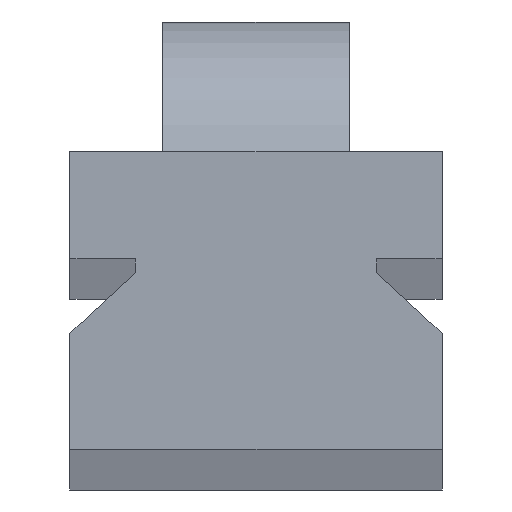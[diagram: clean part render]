
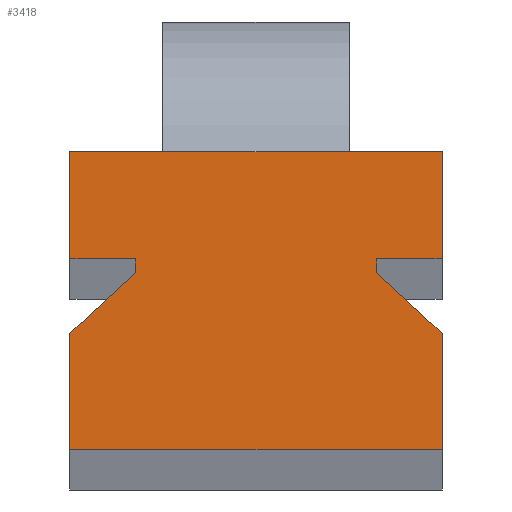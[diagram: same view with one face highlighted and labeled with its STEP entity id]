
A CAD part, top view. The second image highlights one B-rep face of the part: STEP entity #3418.
In plain terms, the highlighted planar face has unit normal (0, 0, 1).
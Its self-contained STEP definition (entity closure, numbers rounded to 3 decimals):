
#1 = CARTESIAN_POINT ( 'NONE',  ( 20., 20.5, 50. ) ) ;
#20 = DIRECTION ( 'NONE',  ( 0., 1., 0. ) ) ;
#136 = EDGE_CURVE ( 'NONE', #2442, #1818, #2179, .T. ) ;
#139 = DIRECTION ( 'NONE',  ( 1., 0., 0. ) ) ;
#266 = CARTESIAN_POINT ( 'NONE',  ( -13., 20.5, 50. ) ) ;
#305 = DIRECTION ( 'NONE',  ( -0.733, 0.68, 0. ) ) ;
#360 = VECTOR ( 'NONE', #815, 1000. ) ;
#397 = CARTESIAN_POINT ( 'NONE',  ( 13., 20.5, 50. ) ) ;
#483 = EDGE_CURVE ( 'NONE', #721, #3970, #3726, .T. ) ;
#496 = CARTESIAN_POINT ( 'NONE',  ( -20., 32., 50. ) ) ;
#566 = CARTESIAN_POINT ( 'NONE',  ( 20., 32., 50. ) ) ;
#594 = ORIENTED_EDGE ( 'NONE', *, *, #483, .T. ) ;
#605 = VERTEX_POINT ( 'NONE', #3516 ) ;
#669 = ORIENTED_EDGE ( 'NONE', *, *, #3412, .T. ) ;
#683 = CARTESIAN_POINT ( 'NONE',  ( -13., 20.5, 50. ) ) ;
#714 = ORIENTED_EDGE ( 'NONE', *, *, #2255, .T. ) ;
#721 = VERTEX_POINT ( 'NONE', #4206 ) ;
#723 = ORIENTED_EDGE ( 'NONE', *, *, #136, .T. ) ;
#724 = CARTESIAN_POINT ( 'NONE',  ( 20., 32., 50. ) ) ;
#758 = EDGE_CURVE ( 'NONE', #3950, #721, #2600, .T. ) ;
#774 = ORIENTED_EDGE ( 'NONE', *, *, #4106, .T. ) ;
#782 = LINE ( 'NONE', #4129, #2365 ) ;
#815 = DIRECTION ( 'NONE',  ( 1., 0., 0. ) ) ;
#836 = CARTESIAN_POINT ( 'NONE',  ( -20., 0., 50. ) ) ;
#862 = VECTOR ( 'NONE', #2725, 1000. ) ;
#923 = VERTEX_POINT ( 'NONE', #1494 ) ;
#964 = CARTESIAN_POINT ( 'NONE',  ( 20., 0., 50. ) ) ;
#1084 = EDGE_CURVE ( 'NONE', #1104, #1745, #1186, .T. ) ;
#1104 = VERTEX_POINT ( 'NONE', #2928 ) ;
#1126 = ORIENTED_EDGE ( 'NONE', *, *, #758, .T. ) ;
#1142 = LINE ( 'NONE', #2491, #360 ) ;
#1186 = LINE ( 'NONE', #566, #3118 ) ;
#1191 = VECTOR ( 'NONE', #4331, 1000. ) ;
#1285 = DIRECTION ( 'NONE',  ( 0., -1., 0. ) ) ;
#1316 = CARTESIAN_POINT ( 'NONE',  ( -20., 0., 50. ) ) ;
#1321 = EDGE_LOOP ( 'NONE', ( #1126, #594, #3710, #2938, #2964, #3110, #3616, #3656, #714, #723, #774, #669 ) ) ;
#1417 = VECTOR ( 'NONE', #2579, 1000. ) ;
#1494 = CARTESIAN_POINT ( 'NONE',  ( 13., 20.5, 50. ) ) ;
#1516 = VECTOR ( 'NONE', #305, 1000. ) ;
#1585 = DIRECTION ( 'NONE',  ( -1., 0., 0. ) ) ;
#1617 = CARTESIAN_POINT ( 'NONE',  ( 20., 20.5, 50. ) ) ;
#1656 = VECTOR ( 'NONE', #3876, 1000. ) ;
#1712 = LINE ( 'NONE', #397, #1879 ) ;
#1745 = VERTEX_POINT ( 'NONE', #1867 ) ;
#1772 = EDGE_CURVE ( 'NONE', #1745, #605, #1828, .T. ) ;
#1818 = VERTEX_POINT ( 'NONE', #2601 ) ;
#1828 = LINE ( 'NONE', #496, #1656 ) ;
#1838 = VERTEX_POINT ( 'NONE', #1617 ) ;
#1839 = DIRECTION ( 'NONE',  ( 0., 0., 1. ) ) ;
#1867 = CARTESIAN_POINT ( 'NONE',  ( -20., 32., 50. ) ) ;
#1879 = VECTOR ( 'NONE', #20, 1000. ) ;
#1966 = LINE ( 'NONE', #266, #4324 ) ;
#2145 = AXIS2_PLACEMENT_3D ( 'NONE', #3490, #1839, #139 ) ;
#2167 = FACE_OUTER_BOUND ( 'NONE', #1321, .T. ) ;
#2179 = LINE ( 'NONE', #2525, #4333 ) ;
#2255 = EDGE_CURVE ( 'NONE', #3253, #2442, #1966, .T. ) ;
#2284 = EDGE_CURVE ( 'NONE', #605, #3253, #782, .T. ) ;
#2362 = EDGE_CURVE ( 'NONE', #3970, #923, #1712, .T. ) ;
#2365 = VECTOR ( 'NONE', #2690, 1000. ) ;
#2442 = VERTEX_POINT ( 'NONE', #4229 ) ;
#2491 = CARTESIAN_POINT ( 'NONE',  ( -20., 0., 50. ) ) ;
#2515 = PLANE ( 'NONE',  #2145 ) ;
#2525 = CARTESIAN_POINT ( 'NONE',  ( -20., 12.5, 50. ) ) ;
#2579 = DIRECTION ( 'NONE',  ( 0., 1., 0. ) ) ;
#2600 = LINE ( 'NONE', #3561, #1417 ) ;
#2601 = CARTESIAN_POINT ( 'NONE',  ( -20., 12.5, 50. ) ) ;
#2690 = DIRECTION ( 'NONE',  ( 1., 0., 0. ) ) ;
#2725 = DIRECTION ( 'NONE',  ( 0., 1., 0. ) ) ;
#2759 = LINE ( 'NONE', #1316, #3725 ) ;
#2856 = VERTEX_POINT ( 'NONE', #836 ) ;
#2928 = CARTESIAN_POINT ( 'NONE',  ( 20., 32., 50. ) ) ;
#2938 = ORIENTED_EDGE ( 'NONE', *, *, #3619, .T. ) ;
#2964 = ORIENTED_EDGE ( 'NONE', *, *, #3176, .T. ) ;
#3027 = CARTESIAN_POINT ( 'NONE',  ( 20., 12.5, 50. ) ) ;
#3110 = ORIENTED_EDGE ( 'NONE', *, *, #1084, .T. ) ;
#3118 = VECTOR ( 'NONE', #1585, 1000. ) ;
#3136 = DIRECTION ( 'NONE',  ( 0., -1., 0. ) ) ;
#3176 = EDGE_CURVE ( 'NONE', #1838, #1104, #3381, .T. ) ;
#3253 = VERTEX_POINT ( 'NONE', #683 ) ;
#3381 = LINE ( 'NONE', #724, #862 ) ;
#3398 = LINE ( 'NONE', #1, #1191 ) ;
#3412 = EDGE_CURVE ( 'NONE', #2856, #3950, #1142, .T. ) ;
#3418 = ADVANCED_FACE ( 'NONE', ( #2167 ), #2515, .T. ) ;
#3490 = CARTESIAN_POINT ( 'NONE',  ( 0., 0., 50. ) ) ;
#3516 = CARTESIAN_POINT ( 'NONE',  ( -20., 20.5, 50. ) ) ;
#3561 = CARTESIAN_POINT ( 'NONE',  ( 20., 0., 50. ) ) ;
#3616 = ORIENTED_EDGE ( 'NONE', *, *, #1772, .T. ) ;
#3619 = EDGE_CURVE ( 'NONE', #923, #1838, #3398, .T. ) ;
#3656 = ORIENTED_EDGE ( 'NONE', *, *, #2284, .T. ) ;
#3710 = ORIENTED_EDGE ( 'NONE', *, *, #2362, .T. ) ;
#3725 = VECTOR ( 'NONE', #3136, 1000. ) ;
#3726 = LINE ( 'NONE', #3027, #1516 ) ;
#3788 = CARTESIAN_POINT ( 'NONE',  ( 13., 19., 50. ) ) ;
#3818 = DIRECTION ( 'NONE',  ( -0.733, -0.68, 0. ) ) ;
#3876 = DIRECTION ( 'NONE',  ( 0., -1., 0. ) ) ;
#3950 = VERTEX_POINT ( 'NONE', #964 ) ;
#3970 = VERTEX_POINT ( 'NONE', #3788 ) ;
#4106 = EDGE_CURVE ( 'NONE', #1818, #2856, #2759, .T. ) ;
#4129 = CARTESIAN_POINT ( 'NONE',  ( -20., 20.5, 50. ) ) ;
#4206 = CARTESIAN_POINT ( 'NONE',  ( 20., 12.5, 50. ) ) ;
#4229 = CARTESIAN_POINT ( 'NONE',  ( -13., 19., 50. ) ) ;
#4324 = VECTOR ( 'NONE', #1285, 1000. ) ;
#4331 = DIRECTION ( 'NONE',  ( 1., 0., 0. ) ) ;
#4333 = VECTOR ( 'NONE', #3818, 1000. ) ;
